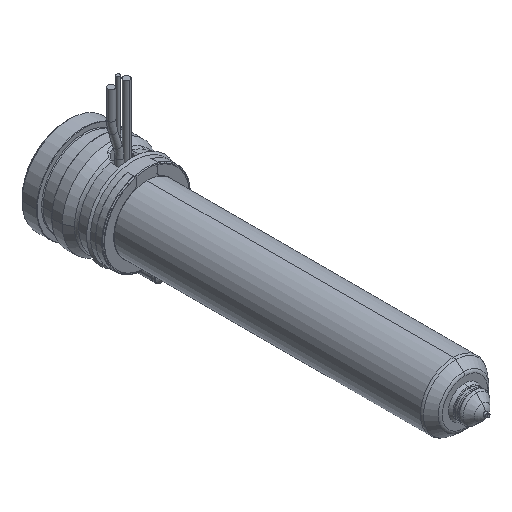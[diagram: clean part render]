
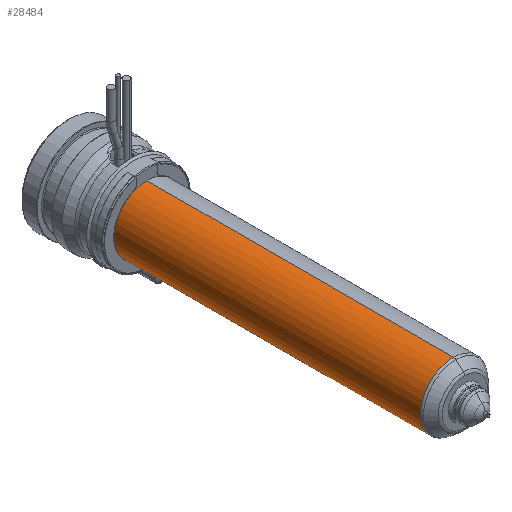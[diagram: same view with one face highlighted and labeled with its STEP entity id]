
A CAD part, isometric view. The second image highlights one B-rep face of the part: STEP entity #28484.
In plain terms, the highlighted cylindrical face has radius 9 mm (diameter 18 mm), a partial arc.
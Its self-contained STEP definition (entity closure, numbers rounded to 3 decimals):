
#27871=CARTESIAN_POINT('',(0.,-105.836,0.));
#27872=DIRECTION('',(0.,-1.,0.));
#27873=DIRECTION('',(0.,0.,1.));
#27874=AXIS2_PLACEMENT_3D('',#27871,#27872,#27873);
#27879=CARTESIAN_POINT('',(0.,-22.,0.));
#27880=DIRECTION('',(0.,-1.,0.));
#27881=DIRECTION('',(0.,0.,1.));
#27882=AXIS2_PLACEMENT_3D('',#27879,#27880,#27881);
#27887=DIRECTION('',(0.,-1.,0.));
#27888=VECTOR('',#27887,83.836);
#27889=CARTESIAN_POINT('',(0.,-22.,9.));
#27890=LINE('',#27889,#27888);
#27902=DIRECTION('',(0.,-1.,0.));
#27903=VECTOR('',#27902,83.836);
#27904=CARTESIAN_POINT('',(0.,-22.,-9.));
#27905=LINE('',#27904,#27903);
#28101=CARTESIAN_POINT('',(0.,-22.,9.));
#28102=CARTESIAN_POINT('',(0.,-105.836,9.));
#28103=VERTEX_POINT('',#28101);
#28104=VERTEX_POINT('',#28102);
#28127=CARTESIAN_POINT('',(0.,-22.,-9.));
#28128=CARTESIAN_POINT('',(0.,-105.836,-9.));
#28129=VERTEX_POINT('',#28127);
#28130=VERTEX_POINT('',#28128);
#28470=CARTESIAN_POINT('',(0.,-13.125,0.));
#28471=DIRECTION('',(0.,-1.,0.));
#28472=DIRECTION('',(0.,0.,1.));
#28473=AXIS2_PLACEMENT_3D('',#28470,#28471,#28472);
#28474=CYLINDRICAL_SURFACE('',#28473,9.);
#28476=ORIENTED_EDGE('',*,*,#28475,.T.);
#28477=ORIENTED_EDGE('',*,*,#28465,.T.);
#28479=ORIENTED_EDGE('',*,*,#28478,.F.);
#28481=ORIENTED_EDGE('',*,*,#28480,.F.);
#28482=EDGE_LOOP('',(#28476,#28477,#28479,#28481));
#28483=FACE_OUTER_BOUND('',#28482,.F.);
#28484=ADVANCED_FACE('',(#28483),#28474,.T.);
#27875=CIRCLE('',#27874,9.);
#27883=CIRCLE('',#27882,9.);
#28465=EDGE_CURVE('',#28104,#28130,#27875,.T.);
#28475=EDGE_CURVE('',#28103,#28104,#27890,.T.);
#28478=EDGE_CURVE('',#28129,#28130,#27905,.T.);
#28480=EDGE_CURVE('',#28103,#28129,#27883,.T.);
